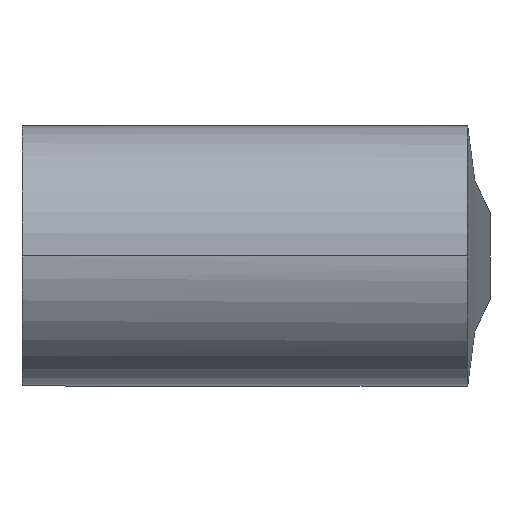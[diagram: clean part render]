
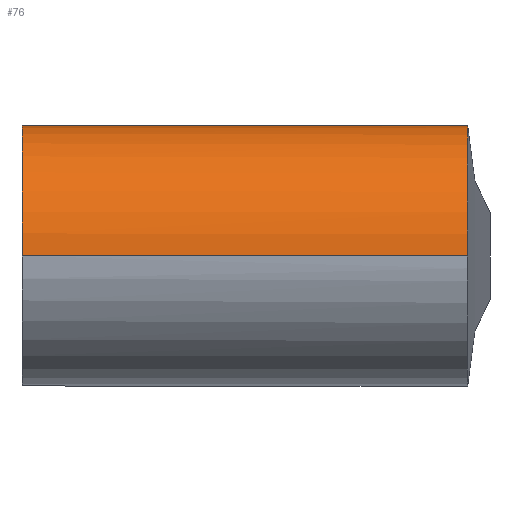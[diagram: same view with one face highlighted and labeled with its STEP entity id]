
A CAD part, left-side view. The second image highlights one B-rep face of the part: STEP entity #76.
In plain terms, the highlighted cylindrical face has radius 10 mm (diameter 20 mm), a partial arc.
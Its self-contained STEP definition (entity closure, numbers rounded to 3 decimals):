
#76 = ADVANCED_FACE( '', ( #101 ), #102, .T. );
#101 = FACE_OUTER_BOUND( '', #149, .T. );
#102 = CYLINDRICAL_SURFACE( '', #150, 10. );
#149 = EDGE_LOOP( '', ( #205, #206, #207, #208, #209, #210, #211 ) );
#150 = AXIS2_PLACEMENT_3D( '', #212, #213, #214 );
#205 = ORIENTED_EDGE( '', *, *, #371, .F. );
#206 = ORIENTED_EDGE( '', *, *, #372, .F. );
#207 = ORIENTED_EDGE( '', *, *, #373, .F. );
#208 = ORIENTED_EDGE( '', *, *, #374, .T. );
#209 = ORIENTED_EDGE( '', *, *, #375, .T. );
#210 = ORIENTED_EDGE( '', *, *, #376, .T. );
#211 = ORIENTED_EDGE( '', *, *, #377, .T. );
#212 = CARTESIAN_POINT( '', ( 0., 0., 0. ) );
#213 = DIRECTION( '', ( 0., 1., 0. ) );
#214 = DIRECTION( '', ( 1., 0., 0. ) );
#371 = EDGE_CURVE( '', #428, #429, #430, .T. );
#372 = EDGE_CURVE( '', #431, #428, #432, .T. );
#373 = EDGE_CURVE( '', #433, #431, #434, .T. );
#374 = EDGE_CURVE( '', #433, #435, #436, .T. );
#375 = EDGE_CURVE( '', #435, #437, #438, .T. );
#376 = EDGE_CURVE( '', #437, #439, #440, .T. );
#377 = EDGE_CURVE( '', #439, #429, #441, .T. );
#428 = VERTEX_POINT( '', #547 );
#429 = VERTEX_POINT( '', #548 );
#430 = LINE( '', #549, #550 );
#431 = VERTEX_POINT( '', #551 );
#432 = CIRCLE( '', #552, 10. );
#433 = VERTEX_POINT( '', #553 );
#434 = LINE( '', #554, #555 );
#435 = VERTEX_POINT( '', #556 );
#436 = B_SPLINE_CURVE_WITH_KNOTS( '', 3, ( #557, #558, #559, #560, #561, #562, #563, #564, #565, #566, #567, #568, #569, #570, #571, #572, #573, #574, #575, #576, #577, #578, #579, #580, #581, #582, #583, #584, #585, #586, #587, #588, #589, #590, #591 ), .UNSPECIFIED., .F., .F., ( 4, 2, 2, 2, 2, 2, 2, 2, 3, 2, 2, 2, 2, 2, 2, 2, 4 ), ( 45.203, 47.086, 48.97, 50.853, 52.737, 54.62, 56.504, 58.387, 60.27, 62.154, 64.037, 65.921, 67.804, 69.688, 71.571, 73.454, 75.338 ), .UNSPECIFIED. );
#437 = VERTEX_POINT( '', #592 );
#438 = LINE( '', #593, #594 );
#439 = VERTEX_POINT( '', #595 );
#440 = CIRCLE( '', #596, 10. );
#441 = CIRCLE( '', #597, 10. );
#547 = CARTESIAN_POINT( '', ( 10., 0., 0. ) );
#548 = CARTESIAN_POINT( '', ( 10., -26., 0. ) );
#549 = CARTESIAN_POINT( '', ( 10., 0., 0. ) );
#550 = VECTOR( '', #739, 1. );
#551 = CARTESIAN_POINT( '', ( -10., 0., 0. ) );
#552 = AXIS2_PLACEMENT_3D( '', #740, #741, #742 );
#553 = CARTESIAN_POINT( '', ( -10., -34.254, 0. ) );
#554 = CARTESIAN_POINT( '', ( -10., 0., 0. ) );
#555 = VECTOR( '', #743, 1. );
#556 = CARTESIAN_POINT( '', ( 0., -34.291, 10. ) );
#557 = CARTESIAN_POINT( '', ( 0., -34.291, -10. ) );
#558 = CARTESIAN_POINT( '', ( -0.628, -34.287, -10. ) );
#559 = CARTESIAN_POINT( '', ( -1.277, -34.284, -9.94 ) );
#560 = CARTESIAN_POINT( '', ( -2.569, -34.277, -9.687 ) );
#561 = CARTESIAN_POINT( '', ( -3.211, -34.274, -9.494 ) );
#562 = CARTESIAN_POINT( '', ( -4.443, -34.269, -8.984 ) );
#563 = CARTESIAN_POINT( '', ( -5.033, -34.267, -8.666 ) );
#564 = CARTESIAN_POINT( '', ( -6.126, -34.263, -7.932 ) );
#565 = CARTESIAN_POINT( '', ( -6.627, -34.262, -7.515 ) );
#566 = CARTESIAN_POINT( '', ( -7.515, -34.259, -6.627 ) );
#567 = CARTESIAN_POINT( '', ( -7.932, -34.258, -6.126 ) );
#568 = CARTESIAN_POINT( '', ( -8.666, -34.256, -5.033 ) );
#569 = CARTESIAN_POINT( '', ( -8.984, -34.256, -4.443 ) );
#570 = CARTESIAN_POINT( '', ( -9.494, -34.255, -3.211 ) );
#571 = CARTESIAN_POINT( '', ( -9.687, -34.254, -2.569 ) );
#572 = CARTESIAN_POINT( '', ( -9.94, -34.254, -1.277 ) );
#573 = CARTESIAN_POINT( '', ( -10., -34.254, -0.628 ) );
#574 = CARTESIAN_POINT( '', ( -10., -34.254, 0. ) );
#575 = CARTESIAN_POINT( '', ( -10., -34.254, 0.628 ) );
#576 = CARTESIAN_POINT( '', ( -9.94, -34.254, 1.277 ) );
#577 = CARTESIAN_POINT( '', ( -9.687, -34.254, 2.569 ) );
#578 = CARTESIAN_POINT( '', ( -9.494, -34.255, 3.211 ) );
#579 = CARTESIAN_POINT( '', ( -8.984, -34.256, 4.443 ) );
#580 = CARTESIAN_POINT( '', ( -8.666, -34.256, 5.033 ) );
#581 = CARTESIAN_POINT( '', ( -7.932, -34.258, 6.126 ) );
#582 = CARTESIAN_POINT( '', ( -7.515, -34.259, 6.627 ) );
#583 = CARTESIAN_POINT( '', ( -6.627, -34.262, 7.515 ) );
#584 = CARTESIAN_POINT( '', ( -6.126, -34.263, 7.932 ) );
#585 = CARTESIAN_POINT( '', ( -5.033, -34.267, 8.666 ) );
#586 = CARTESIAN_POINT( '', ( -4.443, -34.269, 8.984 ) );
#587 = CARTESIAN_POINT( '', ( -3.211, -34.274, 9.494 ) );
#588 = CARTESIAN_POINT( '', ( -2.569, -34.277, 9.687 ) );
#589 = CARTESIAN_POINT( '', ( -1.277, -34.284, 9.94 ) );
#590 = CARTESIAN_POINT( '', ( -0.628, -34.287, 10. ) );
#591 = CARTESIAN_POINT( '', ( 0., -34.291, 10. ) );
#592 = CARTESIAN_POINT( '', ( 0., -26., 10. ) );
#593 = CARTESIAN_POINT( '', ( 0., -36., 10. ) );
#594 = VECTOR( '', #744, 1. );
#595 = CARTESIAN_POINT( '', ( 2.47, -26., 9.69 ) );
#596 = AXIS2_PLACEMENT_3D( '', #745, #746, #747 );
#597 = AXIS2_PLACEMENT_3D( '', #748, #749, #750 );
#739 = DIRECTION( '', ( 0., -1., 0. ) );
#740 = CARTESIAN_POINT( '', ( 0., 0., 0. ) );
#741 = DIRECTION( '', ( 0., 1., 0. ) );
#742 = DIRECTION( '', ( 1., 0., 0. ) );
#743 = DIRECTION( '', ( 0., 1., 0. ) );
#744 = DIRECTION( '', ( 0., 1., 0. ) );
#745 = CARTESIAN_POINT( '', ( 0., -26., 0. ) );
#746 = DIRECTION( '', ( 0., 1., 0. ) );
#747 = DIRECTION( '', ( 1., 0., 0. ) );
#748 = CARTESIAN_POINT( '', ( 0., -26., 0. ) );
#749 = DIRECTION( '', ( 0., 1., 0. ) );
#750 = DIRECTION( '', ( 1., 0., 0. ) );
